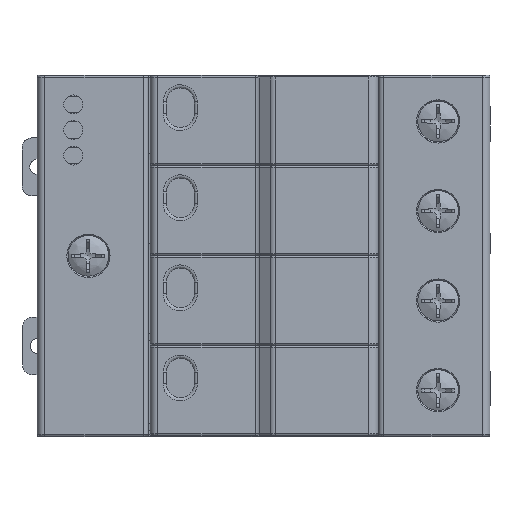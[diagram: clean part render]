
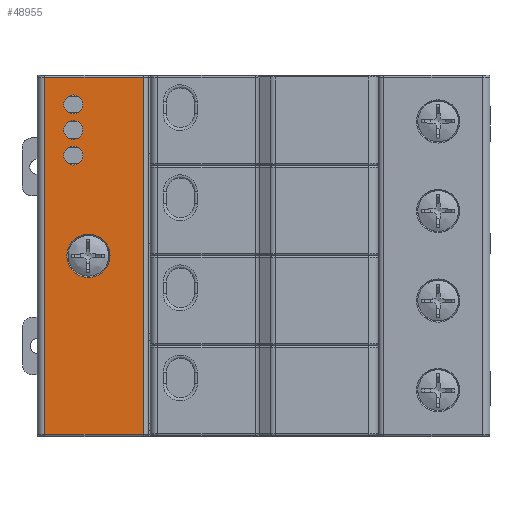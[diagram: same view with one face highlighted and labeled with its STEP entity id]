
A CAD part, top view. The second image highlights one B-rep face of the part: STEP entity #48955.
In plain terms, the highlighted planar face has unit normal (0, 0, 1).
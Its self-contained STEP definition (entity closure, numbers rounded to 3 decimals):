
#1643 = DIRECTION ( 'NONE',  ( 0., 0., -1. ) ) ;
#2257 = LINE ( 'NONE', #41105, #4684 ) ;
#2691 = CARTESIAN_POINT ( 'NONE',  ( 10.2, 35.9, 44. ) ) ;
#3888 = DIRECTION ( 'NONE',  ( 1., 0., 0. ) ) ;
#4407 = DIRECTION ( 'NONE',  ( 0., 0., -1. ) ) ;
#4684 = VECTOR ( 'NONE', #17772, 1000. ) ;
#4729 = AXIS2_PLACEMENT_3D ( 'NONE', #50602, #27201, #3888 ) ;
#5152 = FACE_OUTER_BOUND ( 'NONE', #16143, .T. ) ;
#6584 = DIRECTION ( 'NONE',  ( 1., 0., 0. ) ) ;
#6832 = VERTEX_POINT ( 'NONE', #23073 ) ;
#7876 = EDGE_LOOP ( 'NONE', ( #12897 ) ) ;
#8848 = EDGE_CURVE ( 'NONE', #46593, #6832, #23816, .T. ) ;
#9832 = CIRCLE ( 'NONE', #41226, 1.9 ) ;
#9843 = LINE ( 'NONE', #31205, #39683 ) ;
#10451 = CARTESIAN_POINT ( 'NONE',  ( 45., 0.4, 44. ) ) ;
#12897 = ORIENTED_EDGE ( 'NONE', *, *, #49327, .T. ) ;
#13476 = EDGE_CURVE ( 'NONE', #17791, #17791, #9832, .T. ) ;
#13826 = LINE ( 'NONE', #45294, #43668 ) ;
#14701 = ORIENTED_EDGE ( 'NONE', *, *, #32788, .T. ) ;
#15557 = FACE_BOUND ( 'NONE', #36732, .T. ) ;
#15930 = VECTOR ( 'NONE', #37666, 1000. ) ;
#16143 = EDGE_LOOP ( 'NONE', ( #14701, #42501, #32179, #26887 ) ) ;
#16612 = VERTEX_POINT ( 'NONE', #41214 ) ;
#16789 = EDGE_CURVE ( 'NONE', #34862, #21278, #13826, .T. ) ;
#17772 = DIRECTION ( 'NONE',  ( 0., -1., 0. ) ) ;
#17791 = VERTEX_POINT ( 'NONE', #21094 ) ;
#18000 = CARTESIAN_POINT ( 'NONE',  ( 7.2, 60.895, 44. ) ) ;
#18044 = CARTESIAN_POINT ( 'NONE',  ( 21.15, 71.4, 44. ) ) ;
#19393 = PLANE ( 'NONE',  #4729 ) ;
#19450 = EDGE_LOOP ( 'NONE', ( #24190 ) ) ;
#20429 = AXIS2_PLACEMENT_3D ( 'NONE', #24956, #1643, #28854 ) ;
#20664 = CIRCLE ( 'NONE', #38955, 4.29 ) ;
#21094 = CARTESIAN_POINT ( 'NONE',  ( 5.3, 55.815, 44. ) ) ;
#21267 = CARTESIAN_POINT ( 'NONE',  ( 14.49, 35.9, 44. ) ) ;
#21278 = VERTEX_POINT ( 'NONE', #18044 ) ;
#21578 = CIRCLE ( 'NONE', #22040, 1.9 ) ;
#21812 = EDGE_CURVE ( 'NONE', #34812, #34812, #20664, .T. ) ;
#21895 = DIRECTION ( 'NONE',  ( -1., 0., 0. ) ) ;
#22040 = AXIS2_PLACEMENT_3D ( 'NONE', #18000, #45293, #21895 ) ;
#22100 = CARTESIAN_POINT ( 'NONE',  ( 1.5, 71.4, 44. ) ) ;
#22298 = ORIENTED_EDGE ( 'NONE', *, *, #13476, .T. ) ;
#23073 = CARTESIAN_POINT ( 'NONE',  ( 1.5, 0.4, 44. ) ) ;
#23816 = LINE ( 'NONE', #10451, #15930 ) ;
#24190 = ORIENTED_EDGE ( 'NONE', *, *, #21812, .T. ) ;
#24728 = EDGE_CURVE ( 'NONE', #44000, #44000, #30106, .T. ) ;
#24956 = CARTESIAN_POINT ( 'NONE',  ( 7.2, 65.975, 44. ) ) ;
#25865 = FACE_BOUND ( 'NONE', #7876, .T. ) ;
#26887 = ORIENTED_EDGE ( 'NONE', *, *, #16789, .F. ) ;
#27022 = CARTESIAN_POINT ( 'NONE',  ( 21.15, 0.4, 44. ) ) ;
#27201 = DIRECTION ( 'NONE',  ( 0., 0., 1. ) ) ;
#27725 = CARTESIAN_POINT ( 'NONE',  ( 7.2, 55.815, 44. ) ) ;
#28854 = DIRECTION ( 'NONE',  ( -1., 0., 0. ) ) ;
#29070 = CARTESIAN_POINT ( 'NONE',  ( 5.3, 65.975, 44. ) ) ;
#29705 = DIRECTION ( 'NONE',  ( 1., 0., 0. ) ) ;
#29875 = DIRECTION ( 'NONE',  ( 0., 0., -1. ) ) ;
#29928 = EDGE_LOOP ( 'NONE', ( #45143 ) ) ;
#30106 = CIRCLE ( 'NONE', #20429, 1.9 ) ;
#31205 = CARTESIAN_POINT ( 'NONE',  ( 1.5, 35.9, 44. ) ) ;
#31624 = DIRECTION ( 'NONE',  ( -1., 0., 0. ) ) ;
#32179 = ORIENTED_EDGE ( 'NONE', *, *, #37864, .F. ) ;
#32788 = EDGE_CURVE ( 'NONE', #34862, #6832, #9843, .T. ) ;
#34812 = VERTEX_POINT ( 'NONE', #21267 ) ;
#34862 = VERTEX_POINT ( 'NONE', #22100 ) ;
#35137 = DIRECTION ( 'NONE',  ( 0., -1., 0. ) ) ;
#36235 = FACE_BOUND ( 'NONE', #19450, .T. ) ;
#36732 = EDGE_LOOP ( 'NONE', ( #22298 ) ) ;
#37469 = FACE_BOUND ( 'NONE', #29928, .T. ) ;
#37666 = DIRECTION ( 'NONE',  ( -1., 0., 0. ) ) ;
#37864 = EDGE_CURVE ( 'NONE', #21278, #46593, #2257, .T. ) ;
#38955 = AXIS2_PLACEMENT_3D ( 'NONE', #2691, #29875, #6584 ) ;
#39683 = VECTOR ( 'NONE', #35137, 1000. ) ;
#41105 = CARTESIAN_POINT ( 'NONE',  ( 21.15, 35.9, 44. ) ) ;
#41214 = CARTESIAN_POINT ( 'NONE',  ( 5.3, 60.895, 44. ) ) ;
#41226 = AXIS2_PLACEMENT_3D ( 'NONE', #27725, #4407, #31624 ) ;
#42501 = ORIENTED_EDGE ( 'NONE', *, *, #8848, .F. ) ;
#43668 = VECTOR ( 'NONE', #29705, 1000. ) ;
#44000 = VERTEX_POINT ( 'NONE', #29070 ) ;
#45143 = ORIENTED_EDGE ( 'NONE', *, *, #24728, .T. ) ;
#45293 = DIRECTION ( 'NONE',  ( 0., 0., -1. ) ) ;
#45294 = CARTESIAN_POINT ( 'NONE',  ( 45., 71.4, 44. ) ) ;
#46593 = VERTEX_POINT ( 'NONE', #27022 ) ;
#48955 = ADVANCED_FACE ( 'NONE', ( #36235, #37469, #25865, #15557, #5152 ), #19393, .T. ) ;
#49327 = EDGE_CURVE ( 'NONE', #16612, #16612, #21578, .T. ) ;
#50602 = CARTESIAN_POINT ( 'NONE',  ( 45., 35.9, 44. ) ) ;
